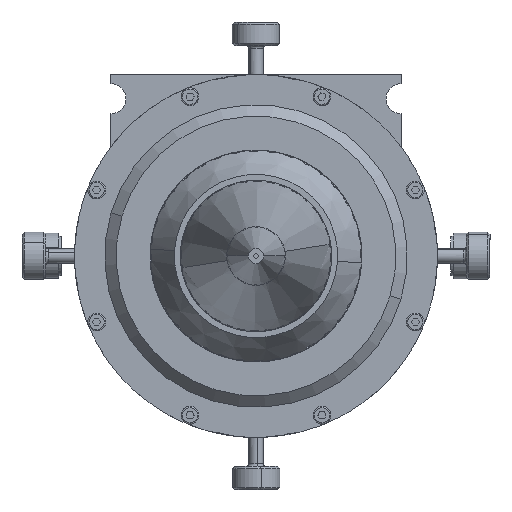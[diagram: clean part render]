
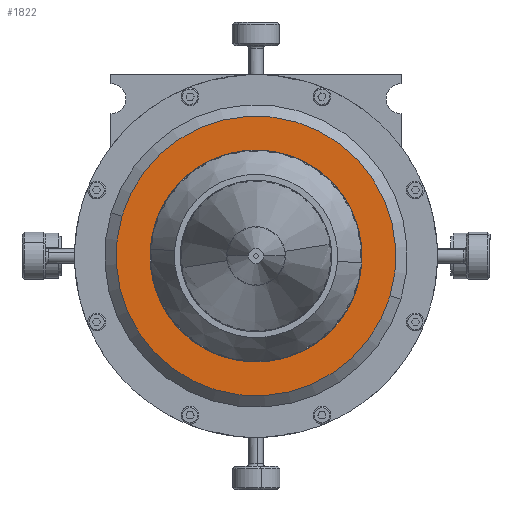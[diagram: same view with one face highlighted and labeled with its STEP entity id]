
A CAD part, front view. The second image highlights one B-rep face of the part: STEP entity #1822.
In plain terms, the highlighted planar face has unit normal (0, -1, 0).
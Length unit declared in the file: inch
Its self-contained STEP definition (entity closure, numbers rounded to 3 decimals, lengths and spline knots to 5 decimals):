
#1009 = FACE_BOUND ( 'NONE', #13665, .T. ) ;
#1159 = ORIENTED_EDGE ( 'NONE', *, *, #12177, .T. ) ;
#1822 = ADVANCED_FACE ( 'Defeatured_0_1502', ( #1009, #20648 ), #10045, .F. ) ;
#2175 = CIRCLE ( 'NONE', #25146, 0.875 ) ;
#2884 = CARTESIAN_POINT ( 'NONE',  ( -0.74858, -1.85041, 0.45304 ) ) ;
#3905 = CARTESIAN_POINT ( 'NONE',  ( 0., -1.85041, 0. ) ) ;
#5914 = DIRECTION ( 'NONE',  ( 0., 0., 1. ) ) ;
#8930 = DIRECTION ( 'NONE',  ( 0.959, 0., -0.285 ) ) ;
#10045 = PLANE ( 'NONE',  #30645 ) ;
#10363 = EDGE_LOOP ( 'NONE', ( #29624, #16504 ) ) ;
#10907 = VERTEX_POINT ( 'NONE', #2884 ) ;
#12177 = EDGE_CURVE ( 'Defeatured_0_1502+Defeatured_0_6+Defeatured_0_6+Defeatured_0_6', #16594, #10907, #47092, .T. ) ;
#13665 = EDGE_LOOP ( 'NONE', ( #25732, #1159 ) ) ;
#15081 = DIRECTION ( 'NONE',  ( 0., 1., 0. ) ) ;
#16504 = ORIENTED_EDGE ( 'NONE', *, *, #52682, .F. ) ;
#16594 = VERTEX_POINT ( 'NONE', #50857 ) ;
#17398 = DIRECTION ( 'NONE',  ( 0., 1., 0. ) ) ;
#17521 = CARTESIAN_POINT ( 'NONE',  ( 0., -1.85041, 0. ) ) ;
#20648 = FACE_OUTER_BOUND ( 'NONE', #10363, .T. ) ;
#23636 = AXIS2_PLACEMENT_3D ( 'NONE', #30502, #40165, #8930 ) ;
#24148 = CARTESIAN_POINT ( 'NONE',  ( -0.27083, -1.85041, -0.91058 ) ) ;
#25146 = AXIS2_PLACEMENT_3D ( 'NONE', #3905, #17398, #44563 ) ;
#25732 = ORIENTED_EDGE ( 'NONE', *, *, #41410, .T. ) ;
#28981 = CIRCLE ( 'NONE', #23636, 1.15625 ) ;
#29624 = ORIENTED_EDGE ( 'NONE', *, *, #52720, .F. ) ;
#30502 = CARTESIAN_POINT ( 'NONE',  ( 0., -1.85041, 0. ) ) ;
#30645 = AXIS2_PLACEMENT_3D ( 'NONE', #24148, #55297, #33193 ) ;
#33193 = DIRECTION ( 'NONE',  ( 0.959, 0., -0.285 ) ) ;
#35472 = DIRECTION ( 'NONE',  ( 0., 1., 0. ) ) ;
#40165 = DIRECTION ( 'NONE',  ( 0., 1., 0. ) ) ;
#41410 = EDGE_CURVE ( 'Defeatured_0_1502+Defeatured_0_6+Defeatured_0_6+Defeatured_0_6', #10907, #16594, #2175, .T. ) ;
#42055 = CARTESIAN_POINT ( 'NONE',  ( -1.10827, -1.85041, 0.32963 ) ) ;
#44563 = DIRECTION ( 'NONE',  ( 0., 0., 1. ) ) ;
#44995 = VERTEX_POINT ( 'NONE', #42055 ) ;
#46859 = VERTEX_POINT ( 'NONE', #50276 ) ;
#46912 = AXIS2_PLACEMENT_3D ( 'NONE', #17521, #35472, #53436 ) ;
#47092 = CIRCLE ( 'NONE', #55631, 0.875 ) ;
#50276 = CARTESIAN_POINT ( 'NONE',  ( 1.10827, -1.85041, -0.32963 ) ) ;
#50857 = CARTESIAN_POINT ( 'NONE',  ( 0.74858, -1.85041, -0.45304 ) ) ;
#52682 = EDGE_CURVE ( 'Defeatured_0_1501+Defeatured_0_1502+Defeatured_0_1502+Defeatured_0_1502', #44995, #46859, #52823, .T. ) ;
#52720 = EDGE_CURVE ( 'Defeatured_0_1501+Defeatured_0_1502+Defeatured_0_1502+Defeatured_0_1502', #46859, #44995, #28981, .T. ) ;
#52823 = CIRCLE ( 'NONE', #46912, 1.15625 ) ;
#53436 = DIRECTION ( 'NONE',  ( 0.959, 0., -0.285 ) ) ;
#54915 = CARTESIAN_POINT ( 'NONE',  ( 0., -1.85041, 0. ) ) ;
#55297 = DIRECTION ( 'NONE',  ( 0., 1., 0. ) ) ;
#55631 = AXIS2_PLACEMENT_3D ( 'NONE', #54915, #15081, #5914 ) ;
